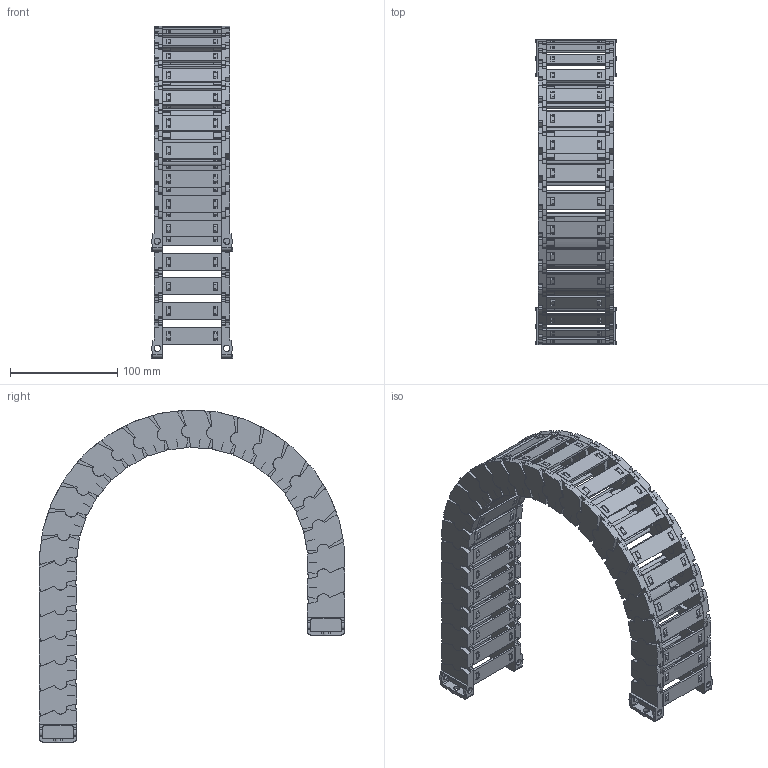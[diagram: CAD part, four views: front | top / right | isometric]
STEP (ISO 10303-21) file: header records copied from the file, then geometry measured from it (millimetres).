
FILE_DESCRIPTION((''),'2;1');
FILE_NAME('JY-25X55-R125_ASM','2023-02-08T15:20:04',('admin'),(''),'CREO PARAMETRIC BY PTC INC, 2021164','CREO PARAMETRIC BY PTC INC, 2021164','');
FILE_SCHEMA(('CONFIG_CONTROL_DESIGN','GEOMETRIC_VALIDATION_PROPERTIES_MIM'));
Length unit declared in the file: millimetre
Products named in the file (11): 25XL-L; 25-35XL-YP; 25XL-R; ASM0001_ASM; 25-LTT-A-L; 25-LTT-A-R; 25XL-LTT-A_ASM; 25-LTT-B-L; 25-LTT-B-R; 25XL-LTT-B_ASM; JY-25X55-R125_ASM
Assembly tree (38 placements, depth 3):
  JY-25X55-R125_ASM
    ASM0001_ASM  x24
      25XL-L
      25-35XL-YP
      25XL-R
    25XL-LTT-A_ASM
      25-LTT-A-L
      25-35XL-YP  x2
      25-LTT-A-R
    25XL-LTT-B_ASM
      25-LTT-B-L
      25-35XL-YP  x2
      25-LTT-B-R
Bounding box: 75.67 x 284.61 x 309.36 mm (x, y, z)
Volume: 433009.2 mm3; surface area: 323919.6 mm2
Topology: 104 solids, 128 shells, 5398 faces, 16134 edges, 10918 vertices
Faces by surface type: plane 3982, cylinder 1368, cone 48
Entity records: 24131 total; most frequent: CARTESIAN_POINT 3132, DIRECTION 3027, ORIENTED_EDGE 2962, EDGE_CURVE 1483, PRESENTATION_STYLE_ASSIGNMENT 1413, STYLED_ITEM 1381, VECTOR 1053, LINE 1053
